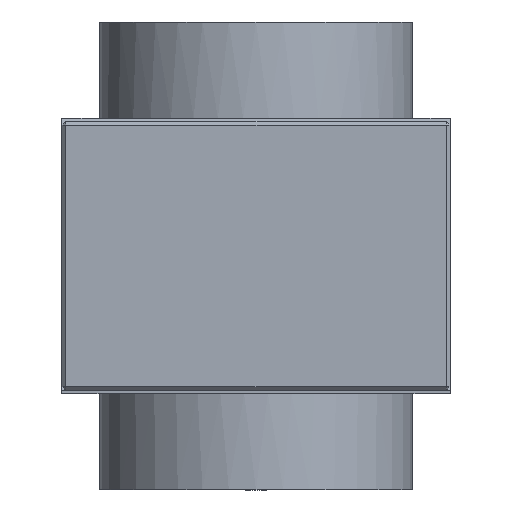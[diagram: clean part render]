
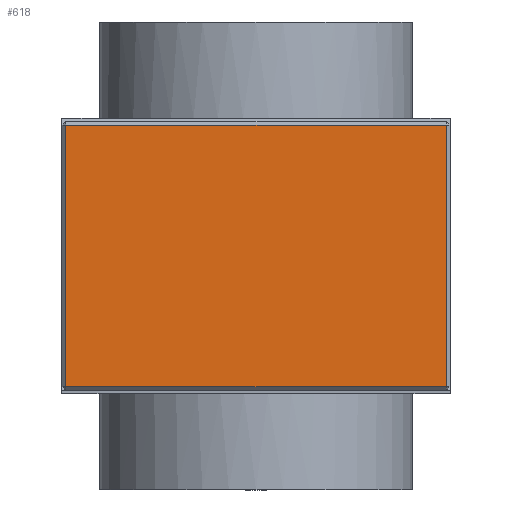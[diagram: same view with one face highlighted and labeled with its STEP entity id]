
A CAD part, front view. The second image highlights one B-rep face of the part: STEP entity #618.
In plain terms, the highlighted planar face has unit normal (0, -1, 0).
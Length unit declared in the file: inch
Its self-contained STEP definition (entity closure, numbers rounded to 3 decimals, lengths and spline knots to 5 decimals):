
#34 = CARTESIAN_POINT ( 'NONE',  ( -1.215, -3.00116, -1.71426 ) ) ;
#59 = AXIS2_PLACEMENT_3D ( 'NONE', #1543, #1557, #1520 ) ;
#325 = EDGE_CURVE ( 'NONE', #468, #1007, #526, .T. ) ;
#345 = VECTOR ( 'NONE', #746, 39.37008 ) ;
#399 = CARTESIAN_POINT ( 'NONE',  ( 1.215, -3.00116, -0.01926 ) ) ;
#468 = VERTEX_POINT ( 'NONE', #1651 ) ;
#493 = DIRECTION ( 'NONE',  ( 0., 0., -1. ) ) ;
#521 = VECTOR ( 'NONE', #493, 39.37008 ) ;
#526 = LINE ( 'NONE', #1426, #521 ) ;
#532 = VERTEX_POINT ( 'NONE', #2492 ) ;
#561 = CARTESIAN_POINT ( 'NONE',  ( -1.24, -3.00116, -1.71426 ) ) ;
#618 = ADVANCED_FACE ( 'NONE', ( #2644 ), #1532, .F. ) ;
#746 = DIRECTION ( 'NONE',  ( -1., 0., 0. ) ) ;
#867 = CARTESIAN_POINT ( 'NONE',  ( 1.215, -3.00116, -1.71426 ) ) ;
#972 = EDGE_CURVE ( 'NONE', #1007, #1415, #1883, .T. ) ;
#1007 = VERTEX_POINT ( 'NONE', #34 ) ;
#1023 = LINE ( 'NONE', #399, #2626 ) ;
#1220 = DIRECTION ( 'NONE',  ( 1., 0., 0. ) ) ;
#1253 = CARTESIAN_POINT ( 'NONE',  ( -1.24, -3.00116, -0.04426 ) ) ;
#1303 = ORIENTED_EDGE ( 'NONE', *, *, #2057, .T. ) ;
#1327 = ORIENTED_EDGE ( 'NONE', *, *, #2523, .T. ) ;
#1333 = ORIENTED_EDGE ( 'NONE', *, *, #325, .T. ) ;
#1341 = ORIENTED_EDGE ( 'NONE', *, *, #972, .T. ) ;
#1415 = VERTEX_POINT ( 'NONE', #867 ) ;
#1426 = CARTESIAN_POINT ( 'NONE',  ( -1.215, -3.00116, -0.01926 ) ) ;
#1449 = EDGE_LOOP ( 'NONE', ( #1303, #1327, #1333, #1341 ) ) ;
#1520 = DIRECTION ( 'NONE',  ( 1., 0., 0. ) ) ;
#1532 = PLANE ( 'NONE',  #59 ) ;
#1543 = CARTESIAN_POINT ( 'NONE',  ( -1.24, -3.00116, -0.01926 ) ) ;
#1557 = DIRECTION ( 'NONE',  ( 0., 1., 0. ) ) ;
#1651 = CARTESIAN_POINT ( 'NONE',  ( -1.215, -3.00116, -0.04426 ) ) ;
#1883 = LINE ( 'NONE', #561, #2004 ) ;
#2004 = VECTOR ( 'NONE', #1220, 39.37008 ) ;
#2057 = EDGE_CURVE ( 'NONE', #1415, #532, #1023, .T. ) ;
#2107 = LINE ( 'NONE', #1253, #345 ) ;
#2451 = DIRECTION ( 'NONE',  ( 0., 0., 1. ) ) ;
#2492 = CARTESIAN_POINT ( 'NONE',  ( 1.215, -3.00116, -0.04426 ) ) ;
#2523 = EDGE_CURVE ( 'NONE', #532, #468, #2107, .T. ) ;
#2626 = VECTOR ( 'NONE', #2451, 39.37008 ) ;
#2644 = FACE_OUTER_BOUND ( 'NONE', #1449, .T. ) ;
